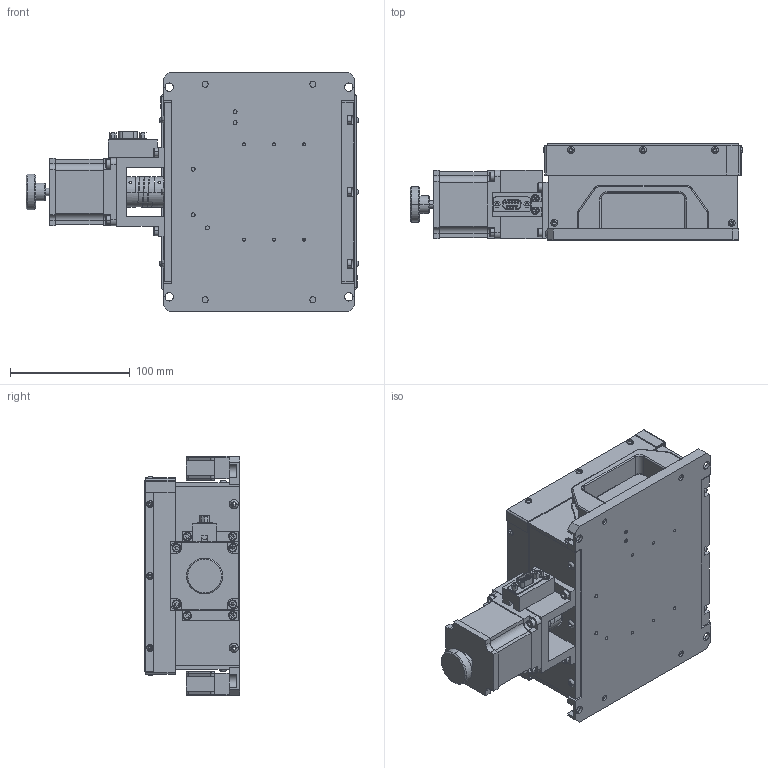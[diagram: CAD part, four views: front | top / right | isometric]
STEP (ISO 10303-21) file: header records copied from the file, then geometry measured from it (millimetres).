
FILE_DESCRIPTION (( 'STEP AP203' ), '1' );
FILE_NAME ('MOZ-160-12.STEP', '2014-01-29T05:53:55', ( '' ), ( '' ), 'SwSTEP 2.0', 'SolidWorks 2014', '' );
FILE_SCHEMA (( 'CONFIG_CONTROL_DESIGN' ));
Length unit declared in the file: millimetre
Products named in the file (1): MOZ-160-12
Bounding box: 277.15 x 80 x 200 mm (x, y, z)
Surface area: 248743.8 mm2 (no closed solid volume)
Topology: 0 solids, 80 shells, 1022 faces, 3117 edges, 2136 vertices
Faces by surface type: plane 583, cylinder 301, torus 74, sphere 38, cone 24, bspline 2
Entity records: 35306 total; most frequent: CARTESIAN_POINT 6818, DIRECTION 6278, ORIENTED_EDGE 5038, EDGE_CURVE 3099, AXIS2_PLACEMENT_3D 2184, VERTEX_POINT 2136, VECTOR 1910, LINE 1910
